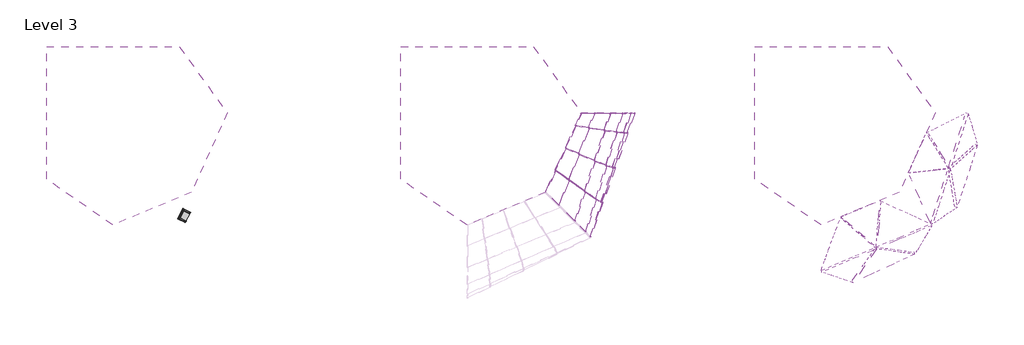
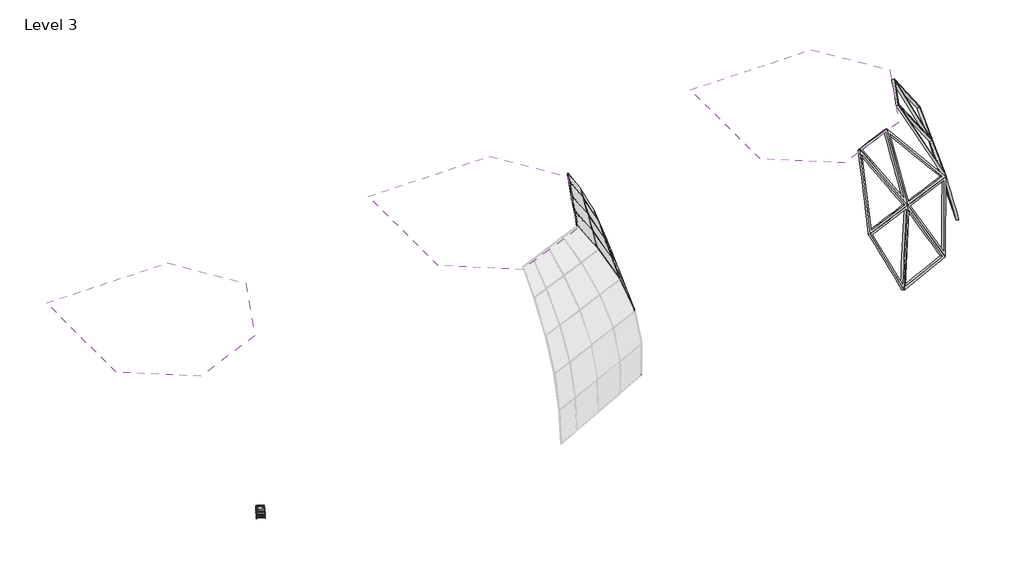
# One storey, part 2 of 2: 44 members, 30 plates, 3 roofs, 1 furniture element.
"""IFC4 building model written with IfcOpenShell, lengths in millimetres."""

from ifc_helpers import new_model, si_unit, frame, origin, place, context, project, spatial, polyline, outline, extrude, transform, mapped, element, save
from components import m_chair_corbu_m_chair_corbu_62085674, member_3e583c14, member_7c9e79d0, member_85cf29cd, member_3af32491, member_fa245f38, member_5840a038, member_d2f57cd3, member_ccb99b07, member_18fb9c65, member_44725ada, member_401bd103, member_7d765077, member_ab0128fd, member_709fdbf6, member_a09d0bad, member_86dfeeaf, member_1a926e2a, member_b738fcb6, member_5fad69b9, member_9aeed09e, member_b9548c3e, member_4824b346, member_fc45a8ce, member_678f4be6, member_cca4eda8, member_57142e44, member_1d8f96ff, member_01b3926e, member_4d557db2, member_155220cb, member_d08a8a15, member_510b38fa, member_b313507f, member_7166e3e3, member_2384c193, member_0ef2ef4f, member_27f6f0a5, member_19d437ef, plate_697abbc0, plate_698bdfbc, plate_4dbbd2cc, plate_c479840c, plate_9d25faa4, plate_b0178d5b, plate_6e998fc3, plate_ebc1c18c, plate_faf148f7, plate_a847c031, plate_24a667f1, plate_f72295dc, empty_system_panel_empty_97c31541, empty_system_panel_empty_3aa81954, empty_system_panel_empty_862ef58f, empty_system_panel_empty_22fa4f6f, empty_system_panel_empty_32f8a223, empty_system_panel_empty_8a625962, empty_system_panel_empty_c9bce112, empty_system_panel_empty_37cef994, empty_system_panel_empty_72590227, empty_system_panel_empty_0e524067, empty_system_panel_empty_2f8f1f17, empty_system_panel_empty_c5fa8077, empty_system_panel_empty_97fd5b3f, empty_system_panel_empty_42ebb15f, empty_system_panel_empty_f5dcf726, empty_system_panel_empty_84171cab, empty_system_panel_empty_7f29d1d9, empty_system_panel_empty_948ce073

model = new_model("IFC4")

# Units and contexts
model_context = context("Model", 3, world=origin())
ifc_project = project(units=[si_unit("LENGTHUNIT", "METRE", prefix="MILLI")], contexts=[model_context])

# Site, building, storey
site = spatial("IfcSite", under=ifc_project)
building = spatial("IfcBuilding", under=site)
storey = spatial("IfcBuildingStorey", under=building, Name="Level 3", Elevation=6096.0)

# Furniture
placement = place(None, origin())
m_chair_corbu_m_chair_corbu_shape = m_chair_corbu_m_chair_corbu_62085674(model_context)
element("IfcFurniture", 1, ObjectType="M_Chair-Corbu : M_Chair-Corbu", at=placement, inside=storey, context=model_context, shape_type="MappedRepresentation", body=[
    mapped(m_chair_corbu_m_chair_corbu_shape, transform((148975.4977089, 20693.0906235, 6096.0), x_axis=(0.4405495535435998, 0.8977282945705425, 0.0), y_axis=(-0.8977282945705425, 0.4405495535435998, 0.0), z_axis=(0.0, 0.0, 1.0))),
])

# Members
member_shape = member_3e583c14(model_context)
element("IfcMember", 2, ObjectType="Circular Mullion : 2.5\" Circular", at=placement, inside=storey, context=model_context, shape_type="MappedRepresentation", body=[
    mapped(member_shape, transform((181603.9116799, 29857.2081053, 22344.3209782), x_axis=(-0.45714499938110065, 0.20613680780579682, 0.8651740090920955), y_axis=(0.7886983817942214, -0.3556415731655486, 0.5014717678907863), z_axis=(0.41106363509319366, 0.9116066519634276, 0.0))),
])
member_2_shape = member_7c9e79d0(model_context)
element("IfcMember", 3, ObjectType="Circular Mullion : 2.5\" Circular", at=placement, inside=storey, context=model_context, shape_type="MappedRepresentation", body=[
    mapped(member_2_shape, transform((179477.4989026, 25141.5099332, 22344.3209782), x_axis=(-0.5629393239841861, 0.2538418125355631, 0.7865517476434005), y_axis=(0.7170258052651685, -0.32332282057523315, 0.6175243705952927), z_axis=(0.41106363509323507, 0.9116066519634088, 0.0))),
])
member_3_shape = member_85cf29cd(model_context)
element("IfcMember", 4, ObjectType="Circular Mullion : 2.5\" Circular", at=placement, inside=storey, context=model_context, shape_type="MappedRepresentation", body=[
    mapped(member_3_shape, transform((180308.5624988, 26984.5411279, 22344.3209782), x_axis=(-0.5284297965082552, 0.23828070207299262, 0.8148522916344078), y_axis=(0.7428247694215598, -0.33495614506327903, 0.5796686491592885), z_axis=(0.41106363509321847, 0.9116066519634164, 0.0))),
])
element("IfcMember", 5, ObjectType="Circular Mullion : 2.5\" Circular", at=placement, inside=storey, context=model_context, shape_type="MappedRepresentation", body=[
    mapped(member_3_shape, transform((181139.6260949, 28827.5723226, 22344.3209782), x_axis=(-0.49012517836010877, 0.2210083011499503, 0.8431682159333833), y_axis=(0.7686377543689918, -0.346595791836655, 0.5376498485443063), z_axis=(0.4110636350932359, 0.9116066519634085, 0.0))),
])
member_4_shape = member_3af32491(model_context)
element("IfcMember", 6, ObjectType="Circular Mullion : 2.5\" Circular", at=placement, inside=storey, context=model_context, shape_type="MappedRepresentation", body=[
    mapped(member_4_shape, transform((186023.7045182, 29915.0951277, 8968.0250125), x_axis=(0.31814700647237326, 0.9474723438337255, 0.03284265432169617), y_axis=(0.9424638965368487, -0.3198377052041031, 0.09729155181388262), z_axis=(0.10268537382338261, 0.0, -0.9947138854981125))),
])
member_5_shape = member_fa245f38(model_context)
element("IfcMember", 7, ObjectType="Circular Mullion : 2.5\" Circular", at=placement, inside=storey, context=model_context, shape_type="MappedRepresentation", body=[
    mapped(member_5_shape, transform((185709.4121023, 29915.0951277, 12012.5776944), x_axis=(0.2864742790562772, 0.9558966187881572, 0.0647621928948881), y_axis=(0.9323686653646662, -0.2937033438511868, 0.2107771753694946), z_axis=(0.22050206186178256, 0.0, -0.9753865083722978))),
])
member_6_shape = member_5840a038(model_context)
element("IfcMember", 8, ObjectType="Circular Mullion : 2.5\" Circular", at=placement, inside=storey, context=model_context, shape_type="MappedRepresentation", body=[
    mapped(member_6_shape, transform((185032.5264649, 29915.0951277, 15006.7679201), x_axis=(0.2677314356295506, 0.9588312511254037, 0.09467053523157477), y_axis=(0.9039807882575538, -0.28397646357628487, 0.3196499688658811), z_axis=(0.3333745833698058, 0.0, -0.9427944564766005))),
])
member_7_shape = member_d2f57cd3(model_context)
element("IfcMember", 9, ObjectType="Circular Mullion : 2.5\" Circular", at=placement, inside=storey, context=model_context, shape_type="MappedRepresentation", body=[
    mapped(member_7_shape, transform((184020.7217234, 29915.0951277, 17868.1855233), x_axis=(0.2676933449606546, 0.9546334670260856, 0.13044238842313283), y_axis=(0.8581708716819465, -0.2977833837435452, 0.41817198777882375), z_axis=(0.4380445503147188, 0.0, -0.8989532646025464))),
])
member_8_shape = member_ccb99b07(model_context)
element("IfcMember", 10, ObjectType="Circular Mullion : 2.5\" Circular", at=placement, inside=storey, context=model_context, shape_type="MappedRepresentation", body=[
    mapped(member_8_shape, transform((182717.0455676, 29915.0951277, 20543.5844877), x_axis=(0.2822193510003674, 0.9441018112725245, 0.17036433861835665), y_axis=(0.8082528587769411, -0.3296540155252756, 0.48790936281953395), z_axis=(0.5167974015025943, 0.0, -0.8561077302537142))),
])
member_9_shape = member_18fb9c65(model_context)
element("IfcMember", 11, ObjectType="Circular Mullion : 2.5\" Circular", at=placement, inside=storey, context=model_context, shape_type="MappedRepresentation", body=[
    mapped(member_9_shape, transform((183370.3494515, 22453.84441, 8968.0250125), x_axis=(0.04161881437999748, -0.014800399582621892, 0.9990239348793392), y_axis=(0.9412764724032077, -0.33473485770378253, -0.04417213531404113), z_axis=(0.33506189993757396, 0.9421961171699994, 0.0))),
])
member_10_shape = member_44725ada(model_context)
element("IfcMember", 12, ObjectType="Circular Mullion : 2.5\" Circular", at=placement, inside=storey, context=model_context, shape_type="MappedRepresentation", body=[
    mapped(member_10_shape, transform((184396.8989617, 25340.5079273, 8968.0250125), x_axis=(0.011231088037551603, -0.003993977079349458, 0.9999289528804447), y_axis=(0.9421291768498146, -0.3350380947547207, -0.011920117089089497), z_axis=(0.335061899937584, 0.9421961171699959, 0.0))),
])
element("IfcMember", 13, ObjectType="Circular Mullion : 2.5\" Circular", at=placement, inside=storey, context=model_context, shape_type="MappedRepresentation", body=[
    mapped(member_10_shape, transform((185423.4484718, 28227.1714446, 8968.0250125), x_axis=(-0.019191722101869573, 0.006824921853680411, 0.9997925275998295), y_axis=(0.9420006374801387, -0.3349923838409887, 0.0203691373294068), z_axis=(0.3350618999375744, 0.9421961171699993, 0.0))),
])
member_11_shape = member_401bd103(model_context)
element("IfcMember", 14, ObjectType="Circular Mullion : 2.5\" Circular", at=placement, inside=storey, context=model_context, shape_type="MappedRepresentation", body=[
    mapped(member_11_shape, transform((186002.4280876, 29855.2656743, 8968.0250125), x_axis=(-0.03632999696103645, 0.012919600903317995, 0.999256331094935), y_axis=(0.9414954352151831, -0.33481272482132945, 0.03855884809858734), z_axis=(0.33506189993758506, 0.9421961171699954, 0.0))),
])
member_12_shape = member_7d765077(model_context)
element("IfcMember", 15, ObjectType="Circular Mullion : 2.5\" Circular", at=placement, inside=storey, context=model_context, shape_type="MappedRepresentation", body=[
    mapped(member_12_shape, transform((183301.0167511, 22447.1437827, 12012.5776944), x_axis=(-0.0875047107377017, 0.028220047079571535, 0.9957643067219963), y_axis=(0.9477005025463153, -0.3056310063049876, 0.09194262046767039), z_axis=(0.3069310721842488, 0.9517317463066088, 0.0))),
])
member_13_shape = member_ab0128fd(model_context)
element("IfcMember", 16, ObjectType="Circular Mullion : 2.5\" Circular", at=placement, inside=storey, context=model_context, shape_type="MappedRepresentation", body=[
    mapped(member_13_shape, transform((184232.7598845, 25336.2925194, 12012.5776944), x_axis=(-0.11079136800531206, 0.035729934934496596, 0.993201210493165), y_axis=(0.9452611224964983, -0.30484431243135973, 0.1164102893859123), z_axis=(0.3069310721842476, 0.9517317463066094, 0.0))),
])
element("IfcMember", 17, ObjectType="Circular Mullion : 2.5\" Circular", at=placement, inside=storey, context=model_context, shape_type="MappedRepresentation", body=[
    mapped(member_13_shape, transform((185164.503018, 28225.4412562, 12012.5776944), x_axis=(-0.13387807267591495, 0.04317533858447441, 0.9900568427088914), y_axis=(0.9422685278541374, -0.3038792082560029, 0.14066786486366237), z_axis=(0.3069310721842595, 0.9517317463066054, 0.0))),
])
member_14_shape = member_709fdbf6(model_context)
element("IfcMember", 18, ObjectType="Circular Mullion : 2.5\" Circular", at=placement, inside=storey, context=model_context, shape_type="MappedRepresentation", body=[
    mapped(member_14_shape, transform((185689.9219792, 29854.6601618, 12012.5776944), x_axis=(-0.14679408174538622, 0.04734071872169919, 0.9880335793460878), y_axis=(0.9403429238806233, -0.3032582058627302, 0.1542389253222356), z_axis=(0.30693107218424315, 0.9517317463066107, 0.0))),
])
member_15_shape = member_a09d0bad(model_context)
element("IfcMember", 19, ObjectType="Circular Mullion : 2.5\" Circular", at=placement, inside=storey, context=model_context, shape_type="MappedRepresentation", body=[
    mapped(member_15_shape, transform((182833.6968162, 22743.6806922, 15006.7679201), x_axis=(-0.25268415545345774, 0.07747556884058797, 0.964441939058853), y_axis=(0.9220733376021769, -0.2827171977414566, 0.2642948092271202), z_axis=(0.2931407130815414, 0.9560693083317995, 0.0))),
])
member_16_shape = member_86dfeeaf(model_context)
element("IfcMember", 20, ObjectType="Circular Mullion : 2.5\" Circular", at=placement, inside=storey, context=model_context, shape_type="MappedRepresentation", body=[
    mapped(member_16_shape, transform((183684.205329, 25517.587725, 15006.7679201), x_axis=(-0.2534436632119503, 0.0777084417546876, 0.9642238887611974), y_axis=(0.9218648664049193, -0.28265327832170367, 0.2650892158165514), z_axis=(0.29314071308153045, 0.9560693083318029, 0.0))),
])
element("IfcMember", 21, ObjectType="Circular Mullion : 2.5\" Circular", at=placement, inside=storey, context=model_context, shape_type="MappedRepresentation", body=[
    mapped(member_16_shape, transform((184534.7138419, 28291.4947577, 15006.7679201), x_axis=(-0.25420265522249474, 0.07794115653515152, 0.9640052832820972), y_axis=(0.9216558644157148, -0.2825891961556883, 0.26588308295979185), z_axis=(0.2931407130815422, 0.9560693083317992, 0.0))),
])
member_17_shape = member_1a926e2a(model_context)
element("IfcMember", 22, ObjectType="Circular Mullion : 2.5\" Circular", at=placement, inside=storey, context=model_context, shape_type="MappedRepresentation", body=[
    mapped(member_17_shape, transform((185013.9120297, 29854.3847266, 15006.7679201), x_axis=(-0.25463006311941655, 0.07807220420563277, 0.9638818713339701), y_axis=(0.9215378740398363, -0.2825530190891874, 0.2663301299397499), z_axis=(0.29314071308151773, 0.9560693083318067, 0.0))),
])
member_18_shape = member_b738fcb6(model_context)
element("IfcMember", 23, ObjectType="Circular Mullion : 2.5\" Circular", at=placement, inside=storey, context=model_context, shape_type="MappedRepresentation", body=[
    mapped(member_18_shape, transform((181910.0782444, 23387.3603587, 17868.1855233), x_axis=(-0.41045731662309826, 0.1327151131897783, 0.9021704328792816), y_axis=(0.8584140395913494, -0.27755508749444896, 0.43137977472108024), z_axis=(0.3076526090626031, 0.9514987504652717, 0.0))),
])
member_19_shape = member_5fad69b9(model_context)
element("IfcMember", 24, ObjectType="Circular Mullion : 2.5\" Circular", at=placement, inside=storey, context=model_context, shape_type="MappedRepresentation", body=[
    mapped(member_19_shape, transform((182726.1523249, 25911.2897679, 17868.1855233), x_axis=(-0.38902369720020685, 0.12578487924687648, 0.9125999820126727), y_axis=(0.8683377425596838, -0.2807637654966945, 0.40885360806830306), z_axis=(0.30765260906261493, 0.9514987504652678, 0.0))),
])
element("IfcMember", 25, ObjectType="Circular Mullion : 2.5\" Circular", at=placement, inside=storey, context=model_context, shape_type="MappedRepresentation", body=[
    mapped(member_19_shape, transform((183542.2264053, 28435.219177, 17868.1855233), x_axis=(-0.36685473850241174, 0.11861688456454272, 0.9226850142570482), y_axis=(0.8779336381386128, -0.28386645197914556, 0.3855546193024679), z_axis=(0.3076526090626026, 0.9514987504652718, 0.0))),
])
member_20_shape = member_9aeed09e(model_context)
element("IfcMember", 26, ObjectType="Circular Mullion : 2.5\" Circular", at=placement, inside=storey, context=model_context, shape_type="MappedRepresentation", body=[
    mapped(member_20_shape, transform((184001.1857828, 29854.6749571, 17868.1855233), x_axis=(-0.3540676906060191, 0.1144823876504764, 0.9281863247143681), y_axis=(0.8831681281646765, -0.2855589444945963, 0.37211577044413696), z_axis=(0.30765260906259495, 0.9514987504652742, 0.0))),
])
member_21_shape = member_b9548c3e(model_context)
element("IfcMember", 27, ObjectType="Circular Mullion : 2.5\" Circular", at=placement, inside=storey, context=model_context, shape_type="MappedRepresentation", body=[
    mapped(member_21_shape, transform((180600.3254636, 24326.5454694, 20543.5844877), x_axis=(-0.5253488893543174, 0.19898124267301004, 0.8272937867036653), y_axis=(0.7736586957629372, -0.2930311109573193, 0.5617695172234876), z_axis=(0.3542044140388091, 0.9351680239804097, 0.0))),
])
member_22_shape = member_4824b346(model_context)
element("IfcMember", 28, ObjectType="Circular Mullion : 2.5\" Circular", at=placement, inside=storey, context=model_context, shape_type="MappedRepresentation", body=[
    mapped(member_22_shape, transform((181418.1858481, 26485.8547535, 20543.5844877), x_axis=(-0.49133478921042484, 0.18609805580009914, 0.8508570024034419), y_axis=(0.7956942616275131, -0.3013773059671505, 0.5253973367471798), z_axis=(0.3542044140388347, 0.9351680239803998, 0.0))),
])
element("IfcMember", 29, ObjectType="Circular Mullion : 2.5\" Circular", at=placement, inside=storey, context=model_context, shape_type="MappedRepresentation", body=[
    mapped(member_22_shape, transform((182236.0462326, 28645.1640376, 20543.5844877), x_axis=(-0.45439727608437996, 0.17210759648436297, 0.8740149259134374), y_axis=(0.817350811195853, -0.3095799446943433, 0.48589907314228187), z_axis=(0.3542044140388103, 0.9351680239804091, 0.0))),
])
member_23_shape = member_fc45a8ce(model_context)
element("IfcMember", 30, ObjectType="Circular Mullion : 2.5\" Circular", at=placement, inside=storey, context=model_context, shape_type="MappedRepresentation", body=[
    mapped(member_23_shape, transform((182694.5535873, 29855.7119582, 20543.5844877), x_axis=(-0.43237639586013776, 0.1637669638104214, 0.8866966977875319), y_axis=(0.8292103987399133, -0.31407188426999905, 0.46235156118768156), z_axis=(0.35420441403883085, 0.9351680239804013, 0.0))),
])
member_24_shape = member_678f4be6(model_context)
element("IfcMember", 31, ObjectType="Circular Mullion : 2.5\" Circular", at=placement, inside=storey, context=model_context, shape_type="MappedRepresentation", body=[
    mapped(member_24_shape, transform((183380.9876668, 22483.7591367, 8968.0250125), x_axis=(0.335447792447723, 0.9420086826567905, 0.009717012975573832), y_axis=(0.9417765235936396, -0.3355819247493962, 0.021017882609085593), z_axis=(0.02305988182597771, 0.0021008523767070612, -0.9997318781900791))),
])
member_25_shape = member_cca4eda8(model_context)
element("IfcMember", 32, ObjectType="Circular Mullion : 2.5\" Circular", at=placement, inside=storey, context=model_context, shape_type="MappedRepresentation", body=[
    mapped(member_25_shape, transform((184407.537177, 25370.422654, 8968.0250125), x_axis=(0.33521053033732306, 0.941943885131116, 0.019380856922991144), y_axis=(0.9405871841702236, -0.335767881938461, 0.05055371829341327), z_axis=(0.05412623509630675, 0.0012832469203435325, -0.998533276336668))),
])
member_26_shape = member_57142e44(model_context)
element("IfcMember", 33, ObjectType="Circular Mullion : 2.5\" Circular", at=placement, inside=storey, context=model_context, shape_type="MappedRepresentation", body=[
    mapped(member_26_shape, transform((185434.0866872, 28257.0861713, 8968.0250125), x_axis=(0.334355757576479, 0.942001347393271, 0.02897738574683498), y_axis=(0.9386027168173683, -0.3356087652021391, 0.07994808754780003), z_axis=(0.08503627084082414, 0.0004671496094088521, -0.9963777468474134))),
])
member_27_shape = member_1d8f96ff(model_context)
element("IfcMember", 34, ObjectType="Circular Mullion : 2.5\" Circular", at=placement, inside=storey, context=model_context, shape_type="MappedRepresentation", body=[
    mapped(member_27_shape, transform((183310.7618127, 22477.3612656, 12012.5776944), x_axis=(0.31062366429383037, 0.9494410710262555, -0.045547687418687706), y_axis=(0.9380379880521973, -0.29844428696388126, 0.17611286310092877), z_axis=(0.15361533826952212, -0.09743028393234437, -0.9833156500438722))),
])
member_28_shape = member_01b3926e(model_context)
element("IfcMember", 35, ObjectType="Circular Mullion : 2.5\" Circular", at=placement, inside=storey, context=model_context, shape_type="MappedRepresentation", body=[
    mapped(member_28_shape, transform((184242.5049461, 25366.5100024, 12012.5776944), x_axis=(0.30708312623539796, 0.9516817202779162, -0.0013626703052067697), y_axis=(0.934500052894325, -0.3012675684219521, 0.18959826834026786), z_axis=(0.18002667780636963, -0.05949584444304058, -0.9818608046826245))),
])
member_29_shape = member_4d557db2(model_context)
element("IfcMember", 36, ObjectType="Circular Mullion : 2.5\" Circular", at=placement, inside=storey, context=model_context, shape_type="MappedRepresentation", body=[
    mapped(member_29_shape, transform((185174.2480795, 28255.6587392, 12012.5776944), x_axis=(0.3009236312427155, 0.9527106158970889, 0.04227825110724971), y_axis=(0.9311504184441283, -0.3031084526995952, 0.20269228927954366), z_axis=(0.20592199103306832, -0.021627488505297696, -0.9783293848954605))),
])
member_30_shape = member_155220cb(model_context)
element("IfcMember", 37, ObjectType="Circular Mullion : 2.5\" Circular", at=placement, inside=storey, context=model_context, shape_type="MappedRepresentation", body=[
    mapped(member_30_shape, transform((182843.0040338, 22774.0358927, 15006.7679201), x_axis=(0.31971805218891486, 0.941274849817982, -0.10854503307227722), y_axis=(0.8986863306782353, -0.2649462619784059, 0.3495230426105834), z_axis=(0.30023864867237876, -0.20929676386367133, -0.9306189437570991))),
])
member_31_shape = member_d08a8a15(model_context)
element("IfcMember", 38, ObjectType="Circular Mullion : 2.5\" Circular", at=placement, inside=storey, context=model_context, shape_type="MappedRepresentation", body=[
    mapped(member_31_shape, transform((183693.5125467, 25547.9429255, 15006.7679201), x_axis=(0.300978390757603, 0.9531472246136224, -0.0303706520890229), y_axis=(0.9002118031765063, -0.27346507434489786, 0.3388739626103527), z_axis=(0.31469146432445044, -0.12933375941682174, -0.940341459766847))),
])
member_32_shape = member_510b38fa(model_context)
element("IfcMember", 39, ObjectType="Circular Mullion : 2.5\" Circular", at=placement, inside=storey, context=model_context, shape_type="MappedRepresentation", body=[
    mapped(member_32_shape, transform((184544.0210595, 28321.8499583, 15006.7679201), x_axis=(0.2798637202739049, 0.9587927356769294, 0.048916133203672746), y_axis=(0.9025625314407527, -0.28013190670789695, 0.326966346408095), z_axis=(0.32719592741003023, -0.047356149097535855, -0.9437691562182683))),
])
member_33_shape = member_b313507f(model_context)
element("IfcMember", 40, ObjectType="Circular Mullion : 2.5\" Circular", at=placement, inside=storey, context=model_context, shape_type="MappedRepresentation", body=[
    mapped(member_33_shape, transform((181919.8462148, 23417.570444, 17868.1855233), x_axis=(0.36844115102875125, 0.9187167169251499, -0.1421643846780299), y_axis=(0.8298867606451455, -0.25611507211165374, 0.49567432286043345), z_axis=(0.4189738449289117, -0.30060715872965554, -0.8567941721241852))),
])
member_34_shape = member_7166e3e3(model_context)
element("IfcMember", 41, ObjectType="Circular Mullion : 2.5\" Circular", at=placement, inside=storey, context=model_context, shape_type="MappedRepresentation", body=[
    mapped(member_34_shape, transform((182735.9202952, 25941.4998532, 17868.1855233), x_axis=(0.3258399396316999, 0.944422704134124, -0.04352114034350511), y_axis=(0.8415327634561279, -0.2687466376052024, 0.468612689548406), z_axis=(0.4308723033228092, -0.18931719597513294, -0.8823310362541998))),
])
member_35_shape = member_2384c193(model_context)
element("IfcMember", 42, ObjectType="Circular Mullion : 2.5\" Circular", at=placement, inside=storey, context=model_context, shape_type="MappedRepresentation", body=[
    mapped(member_35_shape, transform((183551.9943756, 28465.4292623, 17868.1855233), x_axis=(0.28206930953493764, 0.9573485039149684, 0.06261586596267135), y_axis=(0.8539649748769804, -0.2802819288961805, 0.4383900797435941), z_axis=(0.43724218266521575, -0.07018463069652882, -0.8966010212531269))),
])
member_36_shape = member_0ef2ef4f(model_context)
element("IfcMember", 43, ObjectType="Circular Mullion : 2.5\" Circular", at=placement, inside=storey, context=model_context, shape_type="MappedRepresentation", body=[
    mapped(member_36_shape, transform((180611.5714537, 24356.2370542, 20543.5844877), x_axis=(0.4338619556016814, 0.8911328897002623, -0.1328381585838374), y_axis=(0.7538749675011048, -0.278317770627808, 0.5951569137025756), z_axis=(0.49339268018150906, -0.3583593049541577, -0.7925542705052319))),
])
member_37_shape = member_27f6f0a5(model_context)
element("IfcMember", 44, ObjectType="Circular Mullion : 2.5\" Circular", at=placement, inside=storey, context=model_context, shape_type="MappedRepresentation", body=[
    mapped(member_37_shape, transform((181429.4318382, 26515.5463383, 20543.5844877), x_axis=(0.3705716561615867, 0.9283593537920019, -0.028732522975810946), y_axis=(0.7762380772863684, -0.2925659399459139, 0.5584439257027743), z_axis=(0.5100304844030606, -0.22924676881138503, -0.8290445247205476))),
])
member_38_shape = member_19d437ef(model_context)
element("IfcMember", 45, ObjectType="Circular Mullion : 2.5\" Circular", at=placement, inside=storey, context=model_context, shape_type="MappedRepresentation", body=[
    mapped(member_38_shape, transform((182247.2922228, 28674.8556224, 20543.5844877), x_axis=(0.3055441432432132, 0.9479049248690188, 0.09010565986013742), y_axis=(0.7992639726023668, -0.3067571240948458, 0.5167950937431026), z_axis=(0.5175131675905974, -0.08588550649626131, -0.8513540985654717))),
])

# Plates
plate_shape = plate_697abbc0(model_context)
element("IfcPlate", 46, ObjectType="tn_cpanel_patbase_triangle_flat_seamless_frame_02_cylinder : tn_triangle_seamless_frame_t8\"xh8\"", at=placement, inside=storey, context=model_context, shape_type="MappedRepresentation", body=[
    mapped(plate_shape, transform((210759.7703534, 16243.6967879, 11169.1137384), x_axis=(0.32182122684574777, 0.9437982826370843, -0.07533856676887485), y_axis=(-0.2118101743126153, 0.14932186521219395, 0.9658361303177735), z_axis=(0.9228041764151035, -0.29486909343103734, 0.2479610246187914))),
])
plate_2_shape = plate_698bdfbc(model_context)
element("IfcPlate", 47, ObjectType="tn_cpanel_patbase_triangle_flat_seamless_frame_02_cylinder : tn_triangle_seamless_frame_t8\"xh8\"", at=placement, inside=storey, context=model_context, shape_type="MappedRepresentation", body=[
    mapped(plate_2_shape, transform((212629.1234429, 21457.7389324, 10536.0604896), x_axis=(0.29748935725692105, 0.9543357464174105, 0.027264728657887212), y_axis=(-0.24857509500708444, 0.04985088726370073, 0.9673289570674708), z_axis=(0.9217974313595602, -0.2945474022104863, 0.2520542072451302))),
])
plate_3_shape = plate_4dbbd2cc(model_context)
element("IfcPlate", 48, ObjectType="tn_cpanel_patbase_triangle_flat_seamless_frame_02_cylinder : tn_triangle_seamless_frame_t8\"xh8\"", at=placement, inside=storey, context=model_context, shape_type="MappedRepresentation", body=[
    mapped(plate_3_shape, transform((210007.1364419, 19501.033409, 16489.3224601), x_axis=(0.4209543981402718, 0.906894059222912, -0.018454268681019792), y_axis=(-0.4563699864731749, 0.22932847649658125, 0.8597295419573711), z_axis=(0.7839157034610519, -0.35348495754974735, 0.5104160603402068))),
])
plate_4_shape = plate_c479840c(model_context)
element("IfcPlate", 49, ObjectType="tn_cpanel_patbase_triangle_flat_seamless_frame_02_cylinder : tn_triangle_seamless_frame_t8\"xh8\"", at=placement, inside=storey, context=model_context, shape_type="MappedRepresentation", body=[
    mapped(plate_4_shape, transform((213617.9605772, 31235.2533331, 18465.913727), x_axis=(-0.31448566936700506, -0.9489854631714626, 0.022920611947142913), y_axis=(0.23050276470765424, -0.09976515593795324, -0.9679438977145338), z_axis=(0.9208513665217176, -0.29912122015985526, 0.25011848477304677))),
])
plate_5_shape = plate_9d25faa4(model_context)
element("IfcPlate", 50, ObjectType="tn_cpanel_patbase_triangle_flat_seamless_frame_02_cylinder : tn_triangle_seamless_frame_t8\"xh8\"", at=placement, inside=storey, context=model_context, shape_type="MappedRepresentation", body=[
    mapped(plate_5_shape, transform((210503.2688341, 30914.7994398, 22431.8055936), x_axis=(-0.3917042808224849, -0.9071023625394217, 0.1540553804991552), y_axis=(0.4437168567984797, -0.33291225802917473, -0.8320365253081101), z_axis=(0.8060292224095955, -0.2575552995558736, 0.5328997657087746))),
])
plate_6_shape = plate_b0178d5b(model_context)
element("IfcPlate", 51, ObjectType="tn_cpanel_patbase_triangle_flat_seamless_frame_02_cylinder : tn_triangle_seamless_frame_t8\"xh8\"", at=placement, inside=storey, context=model_context, shape_type="MappedRepresentation", body=[
    mapped(plate_6_shape, transform((211254.5190053, 34266.796057, 23763.6847077), x_axis=(-0.2907418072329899, -0.9564467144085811, -0.02605540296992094), y_axis=(0.46395290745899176, -0.11711228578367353, -0.8780845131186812), z_axis=(0.8367896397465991, -0.26738435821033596, 0.47779567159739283))),
])
plate_7_shape = plate_6e998fc3(model_context)
element("IfcPlate", 52, ObjectType="tn_cpanel_patbase_triangle_flat_seamless_frame_02_cylinder : tn_triangle_seamless_frame_t8\"xh8\"", at=placement, inside=storey, context=model_context, shape_type="MappedRepresentation", body=[
    mapped(plate_7_shape, transform((198397.1148285, 13457.6961847, 11170.106409), x_axis=(0.9269930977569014, 0.36814611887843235, -0.07177904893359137), y_axis=(-0.047120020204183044, 0.3041577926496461, 0.9514555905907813), z_axis=(0.37210684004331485, -0.8786105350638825, 0.29929922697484))),
])
plate_8_shape = plate_ebc1c18c(model_context)
element("IfcPlate", 53, ObjectType="tn_cpanel_patbase_triangle_flat_seamless_frame_02_cylinder : tn_triangle_seamless_frame_t8\"xh8\"", at=placement, inside=storey, context=model_context, shape_type="MappedRepresentation", body=[
    mapped(plate_8_shape, transform((203678.1205928, 15693.8047947, 10441.1459926), x_axis=(0.9157702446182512, 0.3997926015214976, 0.03912460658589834), y_axis=(-0.14290696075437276, 0.23321407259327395, 0.9618673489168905), z_axis=(0.3754230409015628, -0.8864406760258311, 0.2707036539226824))),
])
plate_9_shape = plate_faf148f7(model_context)
element("IfcPlate", 54, ObjectType="tn_cpanel_patbase_triangle_flat_seamless_frame_02_cylinder : tn_triangle_seamless_frame_t8\"xh8\"", at=placement, inside=storey, context=model_context, shape_type="MappedRepresentation", body=[
    mapped(plate_9_shape, transform((200595.4329904, 15889.6803378, 16573.2846696), x_axis=(0.9235902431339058, 0.38337429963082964, -0.0022823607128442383), y_axis=(-0.21835056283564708, 0.5309048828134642, 0.8188180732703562), z_axis=(0.31512552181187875, -0.7557540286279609, 0.5740485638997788))),
])
plate_10_shape = plate_a847c031(model_context)
element("IfcPlate", 55, ObjectType="tn_cpanel_patbase_triangle_flat_seamless_frame_02_cylinder : tn_triangle_seamless_frame_t8\"xh8\"", at=placement, inside=storey, context=model_context, shape_type="MappedRepresentation", body=[
    mapped(plate_10_shape, transform((211427.4935453, 21632.6324819, 18374.0865613), x_axis=(-0.9103654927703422, -0.4129932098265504, 0.025909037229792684), y_axis=(0.09492288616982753, -0.2693614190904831, -0.9583496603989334), z_axis=(0.4027707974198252, -0.8699891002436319, 0.2844198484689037))),
])
plate_11_shape = plate_24a667f1(model_context)
element("IfcPlate", 56, ObjectType="tn_cpanel_patbase_triangle_flat_seamless_frame_02_cylinder : tn_triangle_seamless_frame_t8\"xh8\"", at=placement, inside=storey, context=model_context, shape_type="MappedRepresentation", body=[
    mapped(plate_11_shape, transform((208687.6126384, 23877.9285467, 22598.0616023), x_axis=(-0.94154408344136, -0.32121463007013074, 0.1015672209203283), y_axis=(0.10823056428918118, -0.5739130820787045, -0.8117326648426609), z_axis=(0.31903116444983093, -0.7532894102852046, 0.5751297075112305))),
])
plate_12_shape = plate_f72295dc(model_context)
element("IfcPlate", 57, ObjectType="tn_cpanel_patbase_triangle_flat_seamless_frame_02_cylinder : tn_triangle_seamless_frame_t8\"xh8\"", at=placement, inside=storey, context=model_context, shape_type="MappedRepresentation", body=[
    mapped(plate_12_shape, transform((211371.2335845, 25899.753888, 23793.5801691), x_axis=(-0.8897867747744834, -0.4469376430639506, -0.09233763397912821), y_axis=(0.3257526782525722, -0.4802728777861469, -0.8143851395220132), z_axis=(0.3196321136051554, -0.7547083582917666, 0.5729315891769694))),
])
empty_system_panel_empty_shape = empty_system_panel_empty_97c31541(model_context)
element("IfcPlate", 58, ObjectType="Empty System Panel : Empty", at=placement, inside=storey, context=model_context, shape_type="MappedRepresentation", body=[
    mapped(empty_system_panel_empty_shape, transform((183888.2833713, 23913.0190616, 8999.762525), x_axis=(0.32111478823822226, 0.9470401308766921, -0.0005322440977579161), y_axis=(-0.9464317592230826, 0.3208882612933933, -0.03602289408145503), z_axis=(-0.03394433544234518, 0.012071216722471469, 0.9993508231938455))),
])
empty_system_panel_empty_2_shape = empty_system_panel_empty_3aa81954(model_context)
element("IfcPlate", 59, ObjectType="Empty System Panel : Empty", at=placement, inside=storey, context=model_context, shape_type="MappedRepresentation", body=[
    mapped(empty_system_panel_empty_2_shape, transform((184909.2201577, 26786.0636083, 8999.7355258), x_axis=(0.3211568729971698, 0.9470255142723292, -0.0009686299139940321), y_axis=(-0.9450029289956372, 0.3204038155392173, -0.06565713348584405), z_axis=(-0.061868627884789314, 0.022001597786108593, 0.9978417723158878))),
])
empty_system_panel_empty_3_shape = empty_system_panel_empty_862ef58f(model_context)
element("IfcPlate", 60, ObjectType="Empty System Panel : Empty", at=placement, inside=storey, context=model_context, shape_type="MappedRepresentation", body=[
    mapped(empty_system_panel_empty_3_shape, transform((185706.8455068, 29029.8649371, 8999.7283716), x_axis=(0.32120696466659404, 0.9470081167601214, -0.0013086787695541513), y_axis=(-0.9432994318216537, 0.31982624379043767, -0.08886706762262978), z_axis=(-0.08373928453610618, 0.02977919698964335, 0.9960426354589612))),
])
empty_system_panel_empty_4_shape = empty_system_panel_empty_22fa4f6f(model_context)
element("IfcPlate", 61, ObjectType="Empty System Panel : Empty", at=placement, inside=storey, context=model_context, shape_type="MappedRepresentation", body=[
    mapped(empty_system_panel_empty_4_shape, transform((183771.9741068, 23926.4611757, 12043.7890838), x_axis=(0.3004246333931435, 0.9538047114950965, -0.0012696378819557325), y_axis=(-0.9378052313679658, 0.2951418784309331, -0.18279119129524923), z_axis=(-0.1739723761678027, 0.05610564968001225, 0.9831509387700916))),
])
empty_system_panel_empty_5_shape = empty_system_panel_empty_32f8a223(model_context)
element("IfcPlate", 62, ObjectType="Empty System Panel : Empty", at=placement, inside=storey, context=model_context, shape_type="MappedRepresentation", body=[
    mapped(empty_system_panel_empty_5_shape, transform((184702.2418629, 26812.3589052, 12043.7105214), x_axis=(0.30045924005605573, 0.9537936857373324, -0.0013601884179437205), y_axis=(-0.9353079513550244, 0.2943559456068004, -0.19635074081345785), z_axis=(-0.18687771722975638, 0.060267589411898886, 0.9805327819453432))),
])
empty_system_panel_empty_6_shape = empty_system_panel_empty_8a625962(model_context)
element("IfcPlate", 63, ObjectType="Empty System Panel : Empty", at=placement, inside=storey, context=model_context, shape_type="MappedRepresentation", body=[
    mapped(empty_system_panel_empty_6_shape, transform((185411.0574548, 29009.5671932, 12043.7570635), x_axis=(0.30048800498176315, 0.9537845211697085, -0.0014303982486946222), y_axis=(-0.9332271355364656, 0.2937010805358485, -0.20694634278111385), z_axis=(-0.19696210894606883, 0.06351978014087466, 0.9783512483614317))),
])
empty_system_panel_empty_7_shape = empty_system_panel_empty_c9bce112(model_context)
element("IfcPlate", 64, ObjectType="Empty System Panel : Empty", at=placement, inside=storey, context=model_context, shape_type="MappedRepresentation", body=[
    mapped(empty_system_panel_empty_7_shape, transform((182463.763048, 21571.7489069, 15036.8823359), x_axis=(0.29919411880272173, 0.9541891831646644, 0.002425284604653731), y_axis=(-0.8909285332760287, 0.280266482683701, -0.35734723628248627), z_axis=(-0.34165659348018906, 0.10475543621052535, 0.9339684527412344))),
])
empty_system_panel_empty_8_shape = empty_system_panel_empty_37cef994(model_context)
element("IfcPlate", 65, ObjectType="Empty System Panel : Empty", at=placement, inside=storey, context=model_context, shape_type="MappedRepresentation", body=[
    mapped(empty_system_panel_empty_8_shape, transform((183272.5111809, 24211.1803216, 15036.6814266), x_axis=(0.29925308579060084, 0.9541708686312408, 0.002354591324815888), y_axis=(-0.8952572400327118, 0.2816281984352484, -0.3452535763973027), z_axis=(-0.33009402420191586, 0.10121023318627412, 0.9385064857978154))),
])
empty_system_panel_empty_9_shape = empty_system_panel_empty_72590227(model_context)
element("IfcPlate", 66, ObjectType="Empty System Panel : Empty", at=placement, inside=storey, context=model_context, shape_type="MappedRepresentation", body=[
    mapped(empty_system_panel_empty_9_shape, transform((184108.563333, 26937.6915872, 15036.7051951), x_axis=(0.2993108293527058, 0.9541529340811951, 0.00228162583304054), y_axis=(-0.8994759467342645, 0.28295531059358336, -0.33298545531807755), z_axis=(-0.3183646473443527, 0.09761388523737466, 0.9429292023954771))),
])
empty_system_panel_empty_10_shape = empty_system_panel_empty_0e524067(model_context)
element("IfcPlate", 67, ObjectType="Empty System Panel : Empty", at=placement, inside=storey, context=model_context, shape_type="MappedRepresentation", body=[
    mapped(empty_system_panel_empty_10_shape, transform((184750.4538577, 29032.208463, 15036.6058021), x_axis=(0.29935535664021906, 0.9541391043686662, 0.002222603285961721), y_axis=(-0.9027156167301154, 0.28397443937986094, -0.32320741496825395), z_axis=(-0.3090159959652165, 0.09474749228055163, 0.946325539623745))),
])
empty_system_panel_empty_11_shape = empty_system_panel_empty_2f8f1f17(model_context)
element("IfcPlate", 68, ObjectType="Empty System Panel : Empty", at=placement, inside=storey, context=model_context, shape_type="MappedRepresentation", body=[
    mapped(empty_system_panel_empty_11_shape, transform((181581.8465149, 22410.8168174, 17898.087435), x_axis=(0.32365366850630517, 0.94612137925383, 0.010131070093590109), y_axis=(-0.8096150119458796, 0.2824664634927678, -0.5145252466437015), z_axis=(-0.4896650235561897, 0.15832571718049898, 0.8574153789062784))),
])
empty_system_panel_empty_12_shape = empty_system_panel_empty_c5fa8077(model_context)
element("IfcPlate", 69, ObjectType="Empty System Panel : Empty", at=placement, inside=storey, context=model_context, shape_type="MappedRepresentation", body=[
    mapped(empty_system_panel_empty_12_shape, transform((182337.4347103, 24754.8734438, 17896.6773658), x_axis=(0.32429705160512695, 0.945905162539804, 0.009738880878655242), y_axis=(-0.8257281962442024, 0.2880881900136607, -0.48495168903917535), z_axis=(-0.4615239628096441, 0.14922673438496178, 0.8744867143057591))),
])
empty_system_panel_empty_13_shape = empty_system_panel_empty_97fd5b3f(model_context)
element("IfcPlate", 70, ObjectType="Empty System Panel : Empty", at=placement, inside=storey, context=model_context, shape_type="MappedRepresentation", body=[
    mapped(empty_system_panel_empty_13_shape, transform((183130.1401662, 27207.5747249, 17896.4763443), x_axis=(0.32493723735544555, 0.9456900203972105, 0.00928316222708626), y_axis=(-0.8414548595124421, 0.2935750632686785, -0.45361591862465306), z_axis=(-0.4317053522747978, 0.1395853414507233, 0.8911489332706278))),
])
empty_system_panel_empty_14_shape = empty_system_panel_empty_42ebb15f(model_context)
element("IfcPlate", 71, ObjectType="Empty System Panel : Empty", at=placement, inside=storey, context=model_context, shape_type="MappedRepresentation", body=[
    mapped(empty_system_panel_empty_14_shape, transform((183734.8403963, 29082.3089956, 17895.8308028), x_axis=(0.3254344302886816, 0.9455229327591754, 0.008877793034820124), y_axis=(-0.8534687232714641, 0.2977665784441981, -0.42769872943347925), z_axis=(-0.4070424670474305, 0.13161097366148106, 0.9038777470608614))),
])
empty_system_panel_empty_15_shape = empty_system_panel_empty_f5dcf726(model_context)
element("IfcPlate", 72, ObjectType="Empty System Panel : Empty", at=placement, inside=storey, context=model_context, shape_type="MappedRepresentation", body=[
    mapped(empty_system_panel_empty_15_shape, transform((180258.1410846, 23468.4647618, 20571.3383715), x_axis=(0.3707414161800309, 0.9286312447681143, 0.013957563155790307), y_axis=(-0.7273988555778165, 0.29968100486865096, -0.6173185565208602), z_axis=(-0.5774441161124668, 0.2187128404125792, 0.7865894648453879))),
])
empty_system_panel_empty_16_shape = empty_system_panel_empty_84171cab(model_context)
element("IfcPlate", 73, ObjectType="Empty System Panel : Empty", at=placement, inside=storey, context=model_context, shape_type="MappedRepresentation", body=[
    mapped(empty_system_panel_empty_16_shape, transform((181017.7877693, 25478.5826658, 20569.9861144), x_axis=(0.37195231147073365, 0.9281526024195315, 0.013572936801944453), y_axis=(-0.7535526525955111, 0.3104561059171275, -0.5794613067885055), z_axis=(-0.5420423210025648, 0.20530404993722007, 0.8148867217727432))),
])
empty_system_panel_empty_17_shape = empty_system_panel_empty_7f29d1d9(model_context)
element("IfcPlate", 74, ObjectType="Empty System Panel : Empty", at=placement, inside=storey, context=model_context, shape_type="MappedRepresentation", body=[
    mapped(empty_system_panel_empty_17_shape, transform((181821.9581157, 27600.1490226, 20570.340636), x_axis=(0.37320662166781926, 0.9276567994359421, 0.013026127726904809), y_axis=(-0.7797187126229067, 0.3212362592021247, -0.5374439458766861), z_axis=(-0.5027479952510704, 0.19042092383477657, 0.8431988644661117))),
])
empty_system_panel_empty_18_shape = empty_system_panel_empty_948ce073(model_context)
element("IfcPlate", 75, ObjectType="Empty System Panel : Empty", at=placement, inside=storey, context=model_context, shape_type="MappedRepresentation", body=[
    mapped(empty_system_panel_empty_18_shape, transform((182420.3996637, 29184.4472942, 20569.492842), x_axis=(0.3742109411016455, 0.92725981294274, 0.012466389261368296), y_axis=(-0.800052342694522, 0.32961351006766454, -0.5012695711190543), z_axis=(-0.4689162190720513, 0.17760679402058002, 0.8652013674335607))),
])

# Roofs
element("IfcRoof", 76, ObjectType="Generic - 12\"", at=placement, inside=storey, context=model_context, shape_type="SweptSolid", body=[
    extrude(outline(polyline([(137437.698253, 35401.4951277), (148410.498253, 35401.4951277), (152369.2142207, 29915.0951277), (149398.6865768, 23327.4222497), (142924.098253, 20627.7237409), (137437.698253, 24428.6951277), (137437.698253, 35401.4951277)])), frame((0.0, 0.0, 22039.5209782), z_axis=(0.0, 0.0, 1.0), x_axis=(1.0, 0.0, 0.0)), (0.0, 0.0, 1.0), 304.8),
])
element("IfcRoof", 77, ObjectType="Generic - 12\"", at=placement, inside=storey, context=model_context, shape_type="SweptSolid", body=[
    extrude(outline(polyline([(166698.498253, 35401.4951277), (177671.298253, 35401.4951277), (181630.0142207, 29915.0951277), (178659.4865768, 23327.4222497), (172184.898253, 20627.7237409), (166698.498253, 24428.6951277), (166698.498253, 35401.4951277)])), frame((0.0, 0.0, 22039.5209782), z_axis=(0.0, 0.0, 1.0), x_axis=(1.0, 0.0, 0.0)), (0.0, 0.0, 1.0), 304.8),
])
element("IfcRoof", 78, ObjectType="Generic - 12\"", at=placement, inside=storey, context=model_context, shape_type="SweptSolid", body=[
    extrude(outline(polyline([(195959.298253, 35401.4951277), (206932.098253, 35401.4951277), (210890.8142207, 29915.0951277), (207920.2865768, 23327.4222497), (201445.698253, 20627.7237409), (195959.298253, 24428.6951277), (195959.298253, 35401.4951277)])), frame((0.0, 0.0, 22039.5209782), z_axis=(0.0, 0.0, 1.0), x_axis=(1.0, 0.0, 0.0)), (0.0, 0.0, 1.0), 304.8),
])

save(model, "model.ifc")
